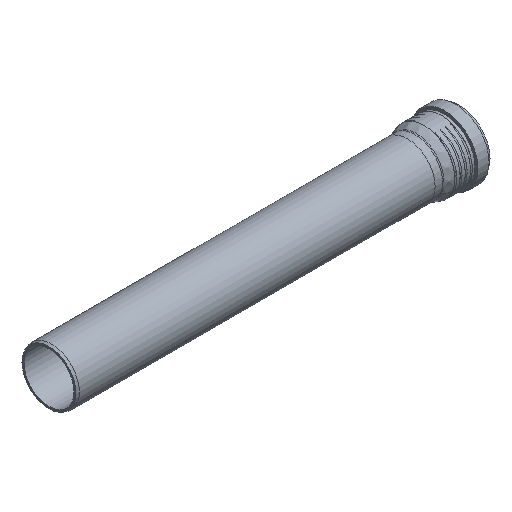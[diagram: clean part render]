
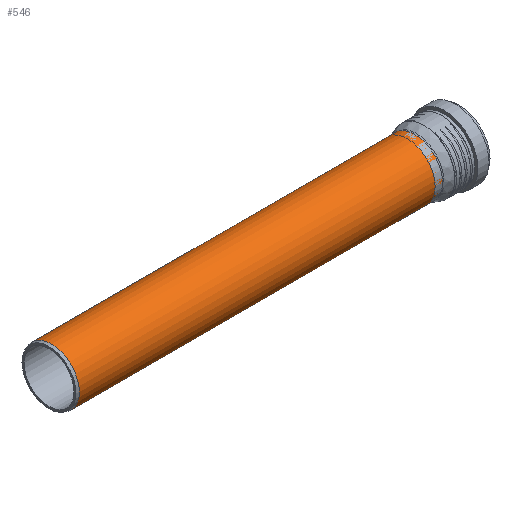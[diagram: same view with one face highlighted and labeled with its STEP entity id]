
A CAD part, isometric view. The second image highlights one B-rep face of the part: STEP entity #546.
In plain terms, the highlighted cylindrical face has radius 37.6 mm (diameter 75.2 mm), a full revolution.
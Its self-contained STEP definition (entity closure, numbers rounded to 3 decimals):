
#67=CYLINDRICAL_SURFACE('',#592,37.6);
#88=FACE_BOUND('',#158,.T.);
#122=FACE_OUTER_BOUND('',#157,.T.);
#157=EDGE_LOOP('',(#376));
#158=EDGE_LOOP('',(#377));
#221=CIRCLE('',#588,37.6);
#224=CIRCLE('',#593,37.6);
#250=VERTEX_POINT('',#786);
#253=VERTEX_POINT('',#794);
#307=EDGE_CURVE('',#250,#250,#221,.T.);
#310=EDGE_CURVE('',#253,#253,#224,.T.);
#376=ORIENTED_EDGE('',*,*,#310,.F.);
#377=ORIENTED_EDGE('',*,*,#307,.F.);
#546=ADVANCED_FACE('',(#122,#88),#67,.T.);
#588=AXIS2_PLACEMENT_3D('',#787,#656,#657);
#592=AXIS2_PLACEMENT_3D('',#793,#664,#665);
#593=AXIS2_PLACEMENT_3D('',#795,#666,#667);
#656=DIRECTION('center_axis',(-1.,0.,0.));
#657=DIRECTION('ref_axis',(0.,1.,0.));
#664=DIRECTION('center_axis',(1.,0.,0.));
#665=DIRECTION('ref_axis',(0.,1.,0.));
#666=DIRECTION('center_axis',(1.,0.,0.));
#667=DIRECTION('ref_axis',(0.,1.,0.));
#786=CARTESIAN_POINT('',(-245.1,-37.6,0.));
#787=CARTESIAN_POINT('Origin',(-245.1,0.,0.));
#793=CARTESIAN_POINT('Origin',(0.,0.,
0.));
#794=CARTESIAN_POINT('',(248.6,-37.6,0.));
#795=CARTESIAN_POINT('Origin',(248.6,0.,0.));
